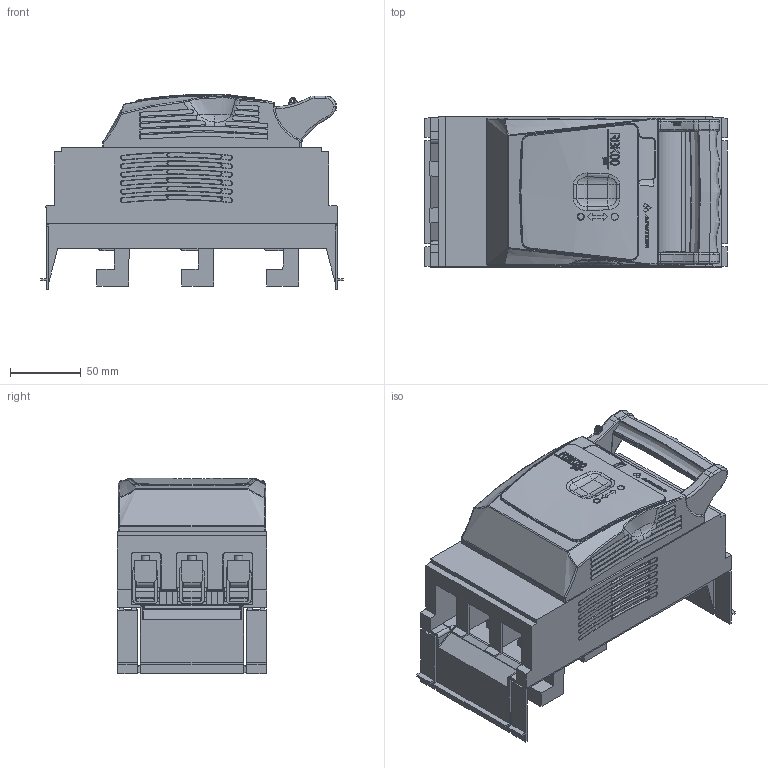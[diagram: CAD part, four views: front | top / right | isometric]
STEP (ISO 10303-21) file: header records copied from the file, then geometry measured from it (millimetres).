
FILE_DESCRIPTION(/* description */ (''),/* implementation_level */ '2;1');
FILE_NAME(/* name */ 'RBK 00 pro-SD-R - 63-823259-161.stp',/* time_stamp */ '2019-03-14T15:01:41+01:00',/* author */ (''),/* organization */ (''),/* preprocessor_version */ 'ST-DEVELOPER v16',/* originating_system */ 'SIEMENS PLM Software NX 10.0',/* authorisation */ '');
FILE_SCHEMA (('AUTOMOTIVE_DESIGN { 1 0 10303 214 3 1 1 1 }'));
Products named in the file (1): 710_1B883FDDch61
Bounding box: 213.94 x 106 x 138.36 mm (x, y, z)
Volume: 1712688 mm3; surface area: 174068.7 mm2
Topology: 1 solids, 6 shells, 2056 faces, 5701 edges, 3668 vertices
Faces by surface type: plane 662, extrusion 630, bspline 306, cylinder 210, torus 149, cone 65, sphere 28, revolution 6
Full cylindrical faces by diameter (mm): 2.2 x1, 6 x6
Entity records: 92074 total; most frequent: CARTESIAN_POINT 38731, ORIENTED_EDGE 11258, DIRECTION 9624, EDGE_CURVE 5629, VERTEX_POINT 3661, VECTOR 3218, AXIS2_PLACEMENT_3D 3200, LINE 2588
